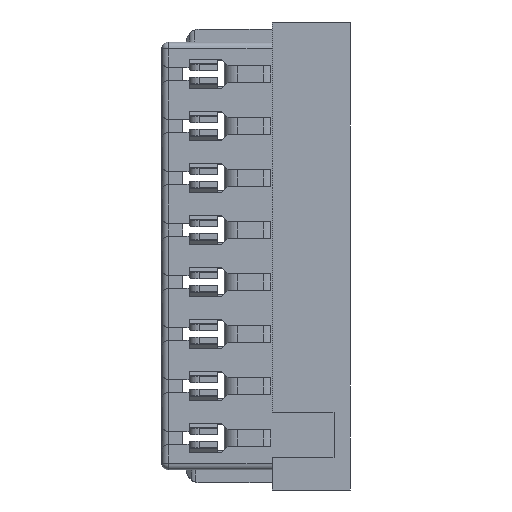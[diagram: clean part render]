
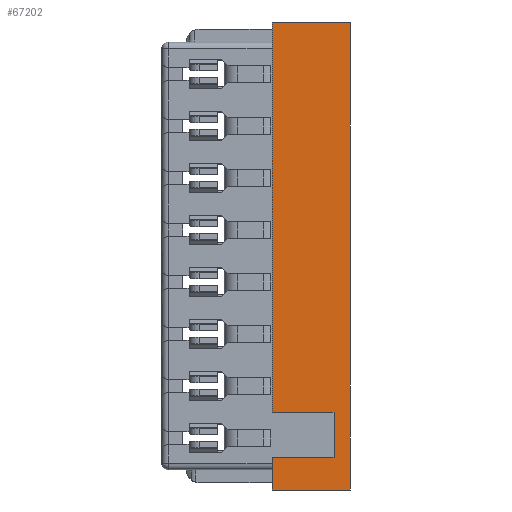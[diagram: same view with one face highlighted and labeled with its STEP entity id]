
A CAD part, left-side view. The second image highlights one B-rep face of the part: STEP entity #67202.
In plain terms, the highlighted planar face has unit normal (-1, 0, 0).
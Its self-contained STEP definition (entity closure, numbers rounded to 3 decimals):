
#124 = CARTESIAN_POINT ( 'NONE',  ( 0., 0.25, -3.2 ) ) ;
#564 = ORIENTED_EDGE ( 'NONE', *, *, #68135, .T. ) ;
#1896 = CARTESIAN_POINT ( 'NONE',  ( 0., 1.2, -3.9 ) ) ;
#2366 = VECTOR ( 'NONE', #74117, 1000. ) ;
#6334 = ORIENTED_EDGE ( 'NONE', *, *, #40646, .T. ) ;
#9539 = VECTOR ( 'NONE', #66200, 1000. ) ;
#11586 = ORIENTED_EDGE ( 'NONE', *, *, #50020, .T. ) ;
#11860 = ORIENTED_EDGE ( 'NONE', *, *, #67875, .F. ) ;
#12015 = VECTOR ( 'NONE', #22640, 1000. ) ;
#16752 = VERTEX_POINT ( 'NONE', #32599 ) ;
#16974 = VERTEX_POINT ( 'NONE', #70047 ) ;
#17375 = EDGE_CURVE ( 'NONE', #38434, #53385, #22804, .T. ) ;
#18378 = DIRECTION ( 'NONE',  ( 0., 1., 0. ) ) ;
#18423 = DIRECTION ( 'NONE',  ( 0., -1., 0. ) ) ;
#19146 = VERTEX_POINT ( 'NONE', #1896 ) ;
#19559 = CARTESIAN_POINT ( 'NONE',  ( 0., 0.25, -3.9 ) ) ;
#19619 = LINE ( 'NONE', #25802, #31790 ) ;
#19827 = EDGE_CURVE ( 'NONE', #38434, #16974, #28457, .T. ) ;
#21990 = DIRECTION ( 'NONE',  ( 0., 0., 1. ) ) ;
#22517 = EDGE_CURVE ( 'NONE', #16752, #52144, #42046, .T. ) ;
#22640 = DIRECTION ( 'NONE',  ( 0., 0., 1. ) ) ;
#22804 = LINE ( 'NONE', #42445, #46587 ) ;
#25166 = EDGE_CURVE ( 'NONE', #16974, #58927, #43647, .T. ) ;
#25802 = CARTESIAN_POINT ( 'NONE',  ( 0., 0.25, -3.2 ) ) ;
#26060 = ORIENTED_EDGE ( 'NONE', *, *, #17375, .T. ) ;
#26458 = CARTESIAN_POINT ( 'NONE',  ( 0., 0.25, -3.9 ) ) ;
#27413 = LINE ( 'NONE', #68751, #51573 ) ;
#28457 = LINE ( 'NONE', #74790, #12015 ) ;
#28837 = FACE_OUTER_BOUND ( 'NONE', #71366, .T. ) ;
#31159 = ORIENTED_EDGE ( 'NONE', *, *, #25166, .F. ) ;
#31179 = LINE ( 'NONE', #19559, #73799 ) ;
#31790 = VECTOR ( 'NONE', #49781, 1000. ) ;
#32599 = CARTESIAN_POINT ( 'NONE',  ( 0., 1.2, -4.4 ) ) ;
#38434 = VERTEX_POINT ( 'NONE', #42029 ) ;
#40646 = EDGE_CURVE ( 'NONE', #52144, #58927, #42671, .T. ) ;
#42029 = CARTESIAN_POINT ( 'NONE',  ( 0., 1.2, -3.2 ) ) ;
#42046 = LINE ( 'NONE', #75638, #42940 ) ;
#42445 = CARTESIAN_POINT ( 'NONE',  ( 0., 1.2, -3.2 ) ) ;
#42671 = LINE ( 'NONE', #72764, #9539 ) ;
#42940 = VECTOR ( 'NONE', #18423, 1000. ) ;
#43647 = LINE ( 'NONE', #67174, #2366 ) ;
#46413 = DIRECTION ( 'NONE',  ( 0., -1., 0. ) ) ;
#46587 = VECTOR ( 'NONE', #46413, 1000. ) ;
#47416 = PLANE ( 'NONE',  #69963 ) ;
#49781 = DIRECTION ( 'NONE',  ( 0., 0., -1. ) ) ;
#50020 = EDGE_CURVE ( 'NONE', #69624, #19146, #31179, .T. ) ;
#50728 = CARTESIAN_POINT ( 'NONE',  ( 0., 0., 2.8 ) ) ;
#51573 = VECTOR ( 'NONE', #21990, 1000. ) ;
#52144 = VERTEX_POINT ( 'NONE', #74133 ) ;
#52820 = CARTESIAN_POINT ( 'NONE',  ( 0., 0.6, -0.8 ) ) ;
#53385 = VERTEX_POINT ( 'NONE', #124 ) ;
#54434 = ORIENTED_EDGE ( 'NONE', *, *, #19827, .F. ) ;
#55150 = ORIENTED_EDGE ( 'NONE', *, *, #22517, .T. ) ;
#58927 = VERTEX_POINT ( 'NONE', #50728 ) ;
#66200 = DIRECTION ( 'NONE',  ( 0., 0., 1. ) ) ;
#67081 = DIRECTION ( 'NONE',  ( 0., 1., 0. ) ) ;
#67174 = CARTESIAN_POINT ( 'NONE',  ( 0., 1.2, 2.8 ) ) ;
#67202 = ADVANCED_FACE ( 'NONE', ( #28837 ), #47416, .F. ) ;
#67875 = EDGE_CURVE ( 'NONE', #16752, #19146, #27413, .T. ) ;
#68135 = EDGE_CURVE ( 'NONE', #53385, #69624, #19619, .T. ) ;
#68751 = CARTESIAN_POINT ( 'NONE',  ( 0., 1.2, -4.4 ) ) ;
#69624 = VERTEX_POINT ( 'NONE', #26458 ) ;
#69963 = AXIS2_PLACEMENT_3D ( 'NONE', #52820, #71314, #18378 ) ;
#70047 = CARTESIAN_POINT ( 'NONE',  ( 0., 1.2, 2.8 ) ) ;
#71314 = DIRECTION ( 'NONE',  ( 1., 0., 0. ) ) ;
#71366 = EDGE_LOOP ( 'NONE', ( #11586, #11860, #55150, #6334, #31159, #54434, #26060, #564 ) ) ;
#72764 = CARTESIAN_POINT ( 'NONE',  ( 0., 0., -4.4 ) ) ;
#73799 = VECTOR ( 'NONE', #67081, 1000. ) ;
#74117 = DIRECTION ( 'NONE',  ( 0., -1., 0. ) ) ;
#74133 = CARTESIAN_POINT ( 'NONE',  ( 0., 0., -4.4 ) ) ;
#74790 = CARTESIAN_POINT ( 'NONE',  ( 0., 1.2, -3.2 ) ) ;
#75638 = CARTESIAN_POINT ( 'NONE',  ( 0., 1.2, -4.4 ) ) ;
